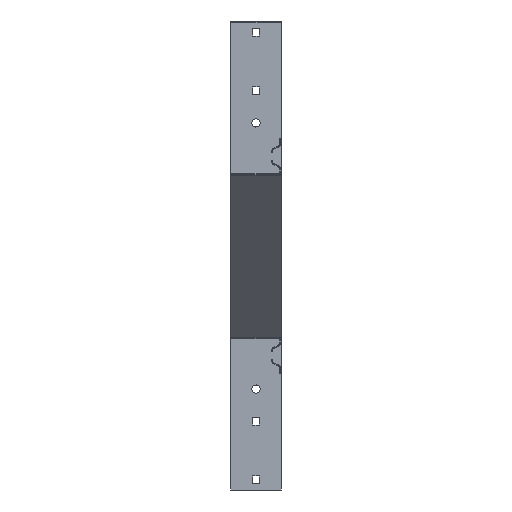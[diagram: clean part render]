
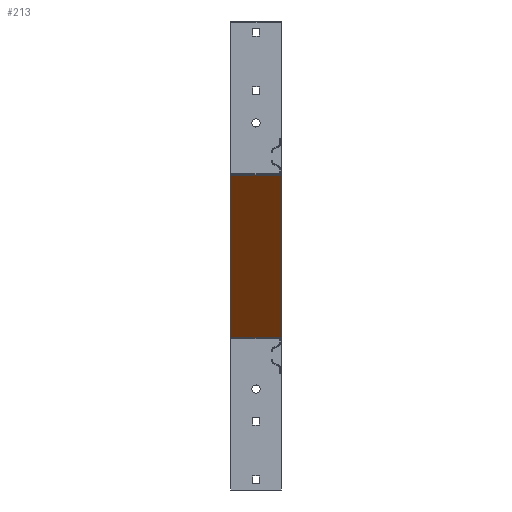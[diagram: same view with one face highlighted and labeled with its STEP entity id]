
A CAD part, left-side view. The second image highlights one B-rep face of the part: STEP entity #213.
In plain terms, the highlighted planar face has unit normal (-0.682, 0, -0.731) as drawn and (0.682, 0, -0.731) by its records, which use the part's own axes.
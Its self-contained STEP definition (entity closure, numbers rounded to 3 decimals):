
#56 = EDGE_LOOP ( 'NONE', ( #7036, #4745, #3807, #4727 ) ) ;
#209 = PLANE ( 'NONE',  #5935 ) ;
#213 = ADVANCED_FACE ( 'NONE', ( #4200 ), #209, .F. ) ;
#837 = LINE ( 'NONE', #3144, #8858 ) ;
#1076 = VERTEX_POINT ( 'NONE', #1997 ) ;
#1340 = DIRECTION ( 'NONE',  ( -0.731, 0., -0.682 ) ) ;
#1445 = CARTESIAN_POINT ( 'NONE',  ( 152.477, 87., -280.424 ) ) ;
#1997 = CARTESIAN_POINT ( 'NONE',  ( 450.888, 87., -1.907 ) ) ;
#2496 = CARTESIAN_POINT ( 'NONE',  ( 152.477, 0., -280.424 ) ) ;
#2566 = DIRECTION ( 'NONE',  ( -0.682, 0., 0.731 ) ) ;
#2927 = DIRECTION ( 'NONE',  ( 0., 1., 0. ) ) ;
#3127 = VECTOR ( 'NONE', #1340, 1000. ) ;
#3144 = CARTESIAN_POINT ( 'NONE',  ( 451.365, 0., -1.462 ) ) ;
#3452 = EDGE_CURVE ( 'NONE', #8843, #1076, #5284, .T. ) ;
#3807 = ORIENTED_EDGE ( 'NONE', *, *, #5800, .F. ) ;
#4200 = FACE_OUTER_BOUND ( 'NONE', #56, .T. ) ;
#4727 = ORIENTED_EDGE ( 'NONE', *, *, #3452, .F. ) ;
#4745 = ORIENTED_EDGE ( 'NONE', *, *, #5866, .T. ) ;
#5261 = CARTESIAN_POINT ( 'NONE',  ( 152.477, 0., -280.424 ) ) ;
#5284 = LINE ( 'NONE', #6914, #5879 ) ;
#5455 = DIRECTION ( 'NONE',  ( -0.731, 0., -0.682 ) ) ;
#5760 = DIRECTION ( 'NONE',  ( 0.731, 0., 0.682 ) ) ;
#5800 = EDGE_CURVE ( 'NONE', #1076, #10050, #5893, .T. ) ;
#5814 = CARTESIAN_POINT ( 'NONE',  ( 451.365, 87., -1.462 ) ) ;
#5866 = EDGE_CURVE ( 'NONE', #6419, #10050, #7670, .T. ) ;
#5879 = VECTOR ( 'NONE', #2927, 1000. ) ;
#5893 = LINE ( 'NONE', #6001, #3127 ) ;
#5935 = AXIS2_PLACEMENT_3D ( 'NONE', #5814, #2566, #5760 ) ;
#6001 = CARTESIAN_POINT ( 'NONE',  ( 451.365, 87., -1.462 ) ) ;
#6419 = VERTEX_POINT ( 'NONE', #2496 ) ;
#6914 = CARTESIAN_POINT ( 'NONE',  ( 450.888, 0., -1.907 ) ) ;
#6944 = DIRECTION ( 'NONE',  ( 0., 1., 0. ) ) ;
#7036 = ORIENTED_EDGE ( 'NONE', *, *, #7143, .T. ) ;
#7143 = EDGE_CURVE ( 'NONE', #8843, #6419, #837, .T. ) ;
#7670 = LINE ( 'NONE', #5261, #9808 ) ;
#8618 = CARTESIAN_POINT ( 'NONE',  ( 450.888, 0., -1.907 ) ) ;
#8843 = VERTEX_POINT ( 'NONE', #8618 ) ;
#8858 = VECTOR ( 'NONE', #5455, 1000. ) ;
#9808 = VECTOR ( 'NONE', #6944, 1000. ) ;
#10050 = VERTEX_POINT ( 'NONE', #1445 ) ;
